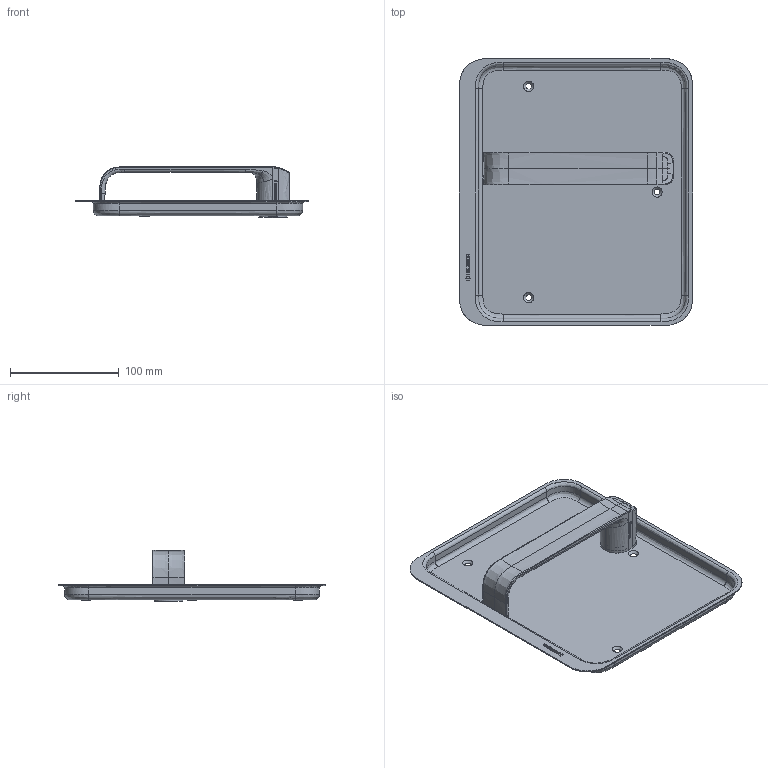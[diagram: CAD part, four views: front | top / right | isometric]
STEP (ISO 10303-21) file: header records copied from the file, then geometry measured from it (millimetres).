
FILE_DESCRIPTION(/* description */ (''),/* implementation_level */ '2;1');
FILE_NAME(/* name */ 'M:\LOC Heusser-Muscheln\Muschel Serie 9\Muschel Serie 9 EN179\S9.13.D4 Links\Heusser-Muschel S9.13.D4.0L.stp',/* time_stamp */ '2020-10-08T09:57:55+02:00',/* author */ ('gm'),/* organization */ (''),/* preprocessor_version */ 'ST-DEVELOPER v16.5',/* originating_system */ 'Autodesk Inventor 2017',/* authorisation */ '');
FILE_SCHEMA (('AUTOMOTIVE_DESIGN { 1 0 10303 214 3 1 1 }'));
Length unit declared in the file: millimetre
Products named in the file (1): S9.13.D4.0L
Bounding box: 214 x 245 x 47.34 mm (x, y, z)
Volume: 113082.6 mm3; surface area: 142207.6 mm2
Topology: 1 solids, 2 shells, 599 faces, 1583 edges, 1032 vertices
Faces by surface type: plane 290, bspline 267, cylinder 24, cone 18
Full cylindrical faces by diameter (mm): 1.7 x2, 4.917 x1, 14.2 x1, 16 x3, 18 x1, 19 x1, 19.1 x1, 23 x1, 23.2 x1, 24 x1, 25 x1, 26 x1, 28 x1, 28.6 x1
Entity records: 29507 total; most frequent: CARTESIAN_POINT 15840, ORIENTED_EDGE 3078, DIRECTION 1891, EDGE_CURVE 1539, VERTEX_POINT 1023, LINE 883, VECTOR 883, EDGE_LOOP 694
